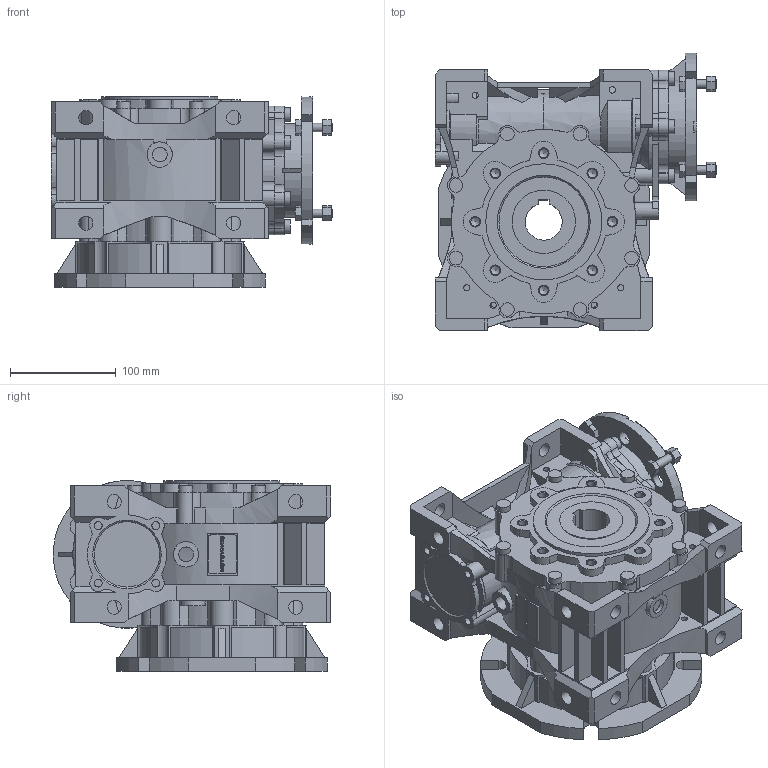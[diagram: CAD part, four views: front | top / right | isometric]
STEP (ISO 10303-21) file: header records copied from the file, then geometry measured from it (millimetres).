
FILE_DESCRIPTION(/* description */ ('STEP AP203'),/* implementation_level */ '2;1');
FILE_NAME(/* name */ 'NMRVP_090_140x24_35_NO_FA_210_S_NO_-_-_-_NO_NO_-_---_---------------',/* time_stamp */ '2025-11-21T02:02:03+01:00',/* author */ ('License CC BY-ND 4.0'),/* organization */ ('CADENAS'),/* preprocessor_version */ 'ST-DEVELOPER v20',/* originating_system */ 'PARTsolutions',/* authorisation */ ' ');
FILE_SCHEMA (('CONFIG_CONTROL_DESIGN','INTEGRATED_CNC_SCHEMA'));
Length unit declared in the file: millimetre
Products named in the file (7): NMRVP 090 140x24 35 NO FA 210 S NO - - - NO NO - ---(---------------); W.090.01.M; 090-35 (140); W.090.14.24.M-p; 9090 B14; 90-50; FU 90FA-p
Assembly tree (6 placements, depth 2):
  NMRVP 090 140x24 35 NO FA 210 S NO - - - NO NO - ---(---------------)
    W.090.01.M
    090-35 (140)
    W.090.14.24.M-p
    9090 B14
    90-50
    FU 90FA-p
Bounding box: 267.1 x 262.77 x 181 mm (x, y, z)
Volume: 4742693.6 mm3; surface area: 632918.6 mm2
Topology: 6 solids, 8 shells, 1677 faces, 4562 edges, 3023 vertices
Faces by surface type: plane 870, cylinder 701, cone 98, torus 8
Full cylindrical faces by diameter (mm): 6 x12, 7.45 x12, 8 x8, 8.376 x16, 13 x14, 13.4 x14, 13.5 x6, 14 x4, 16 x8, 18 x8, 24 x2, 29 x1, 31 x1, 45 x1, 50 x3, 58 x1, 60 x1, 75 x2, 81 x1, 90 x2, 110 x3, 152 x1
Entity records: 52753 total; most frequent: CARTESIAN_POINT 9977, DIRECTION 9055, ORIENTED_EDGE 8686, EDGE_CURVE 4343, AXIS2_PLACEMENT_3D 3301, VERTEX_POINT 2984, LINE 2453, VECTOR 2453
